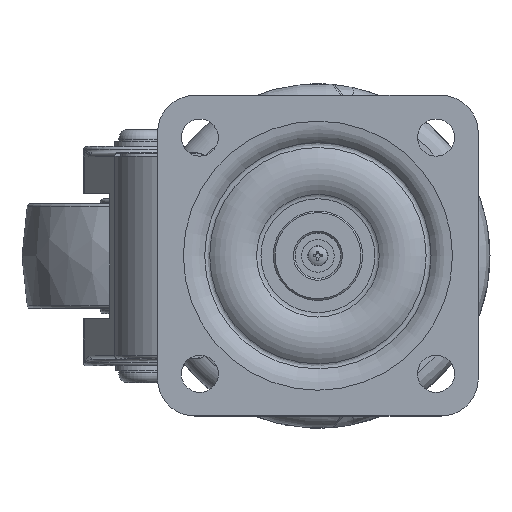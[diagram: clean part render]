
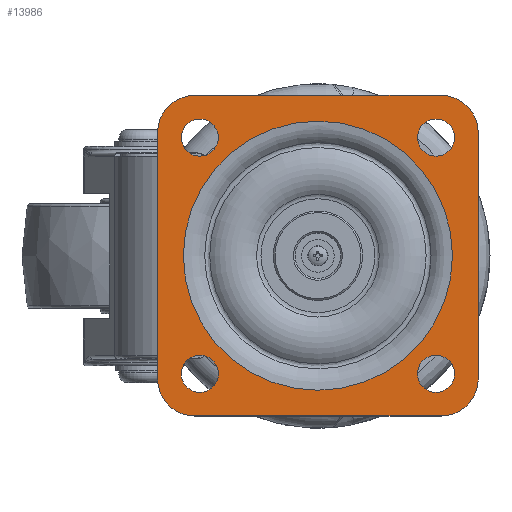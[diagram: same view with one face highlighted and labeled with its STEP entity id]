
A CAD part, top view. The second image highlights one B-rep face of the part: STEP entity #13986.
In plain terms, the highlighted planar face has unit normal (0, 0, 1).
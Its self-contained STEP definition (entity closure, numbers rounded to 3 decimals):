
#13673=CARTESIAN_POINT('',(35.0,29.5,94.1));
#13674=VERTEX_POINT('',#13673);
#13675=CARTESIAN_POINT('',(35.0,35.0,94.1));
#13676=DIRECTION('',(0.0,0.0,-1.0));
#13677=DIRECTION('',(0.0,-1.0,0.0));
#13678=AXIS2_PLACEMENT_3D('',#13675,#13676,#13677);
#13679=CIRCLE('',#13678,5.5);
#13680=EDGE_CURVE('',#13674,#13674,#13679,.T.);
#13722=CARTESIAN_POINT('',(35.0,-40.5,94.1));
#13723=VERTEX_POINT('',#13722);
#13724=CARTESIAN_POINT('',(35.0,-35.0,94.1));
#13725=DIRECTION('',(0.0,0.0,-1.0));
#13726=DIRECTION('',(0.0,-1.0,0.0));
#13727=AXIS2_PLACEMENT_3D('',#13724,#13725,#13726);
#13728=CIRCLE('',#13727,5.5);
#13729=EDGE_CURVE('',#13723,#13723,#13728,.T.);
#13771=CARTESIAN_POINT('',(-35.0,-40.5,94.1));
#13772=VERTEX_POINT('',#13771);
#13773=CARTESIAN_POINT('',(-35.0,-35.0,94.1));
#13774=DIRECTION('',(0.0,0.0,-1.0));
#13775=DIRECTION('',(0.0,-1.0,0.0));
#13776=AXIS2_PLACEMENT_3D('',#13773,#13774,#13775);
#13777=CIRCLE('',#13776,5.5);
#13778=EDGE_CURVE('',#13772,#13772,#13777,.T.);
#13820=CARTESIAN_POINT('',(-35.0,29.5,94.1));
#13821=VERTEX_POINT('',#13820);
#13822=CARTESIAN_POINT('',(-35.0,35.,94.1));
#13823=DIRECTION('',(0.0,0.0,-1.0));
#13824=DIRECTION('',(0.0,-1.0,0.0));
#13825=AXIS2_PLACEMENT_3D('',#13822,#13823,#13824);
#13826=CIRCLE('',#13825,5.5);
#13827=EDGE_CURVE('',#13821,#13821,#13826,.T.);
#13848=CARTESIAN_POINT('',(36.5,47.5,94.1));
#13849=VERTEX_POINT('',#13848);
#13856=CARTESIAN_POINT('',(47.5,36.5,94.1));
#13857=VERTEX_POINT('',#13856);
#13858=CARTESIAN_POINT('',(36.5,36.5,94.1));
#13859=DIRECTION('',(0.,0.,-1.0));
#13860=DIRECTION('',(0.707,0.707,0.));
#13861=AXIS2_PLACEMENT_3D('',#13858,#13859,#13860);
#13862=CIRCLE('',#13861,11.0);
#13863=EDGE_CURVE('',#13849,#13857,#13862,.T.);
#13880=CARTESIAN_POINT('',(47.5,-36.5,94.1));
#13881=VERTEX_POINT('',#13880);
#13882=CARTESIAN_POINT('',(47.5,36.5,94.1));
#13883=DIRECTION('',(0.0,-1.0,0.0));
#13884=VECTOR('',#13883,73.0);
#13885=LINE('',#13882,#13884);
#13886=EDGE_CURVE('',#13857,#13881,#13885,.T.);
#13905=CARTESIAN_POINT('',(0.,69.938,94.1));
#13906=DIRECTION('',(0.0,0.0,1.0));
#13907=DIRECTION('',(0.0,-1.0,0.0));
#13908=AXIS2_PLACEMENT_3D('',#13905,#13906,#13907);
#13909=PLANE('',#13908);
#13910=ORIENTED_EDGE('',*,*,#13863,.F.);
#13911=CARTESIAN_POINT('',(-36.5,47.5,94.1));
#13912=VERTEX_POINT('',#13911);
#13913=CARTESIAN_POINT('',(-36.5,47.5,94.1));
#13914=DIRECTION('',(1.0,0.0,0.0));
#13915=VECTOR('',#13914,73.0);
#13916=LINE('',#13913,#13915);
#13917=EDGE_CURVE('',#13912,#13849,#13916,.T.);
#13918=ORIENTED_EDGE('',*,*,#13917,.F.);
#13919=CARTESIAN_POINT('',(-47.5,36.5,94.1));
#13920=VERTEX_POINT('',#13919);
#13921=CARTESIAN_POINT('',(-36.5,36.5,94.1));
#13922=DIRECTION('',(0.,0.,-1.0));
#13923=DIRECTION('',(-0.707,0.707,0.));
#13924=AXIS2_PLACEMENT_3D('',#13921,#13922,#13923);
#13925=CIRCLE('',#13924,11.0);
#13926=EDGE_CURVE('',#13920,#13912,#13925,.T.);
#13927=ORIENTED_EDGE('',*,*,#13926,.F.);
#13928=CARTESIAN_POINT('',(-47.5,-36.5,94.1));
#13929=VERTEX_POINT('',#13928);
#13930=CARTESIAN_POINT('',(-47.5,-36.5,94.1));
#13931=DIRECTION('',(0.0,1.0,0.0));
#13932=VECTOR('',#13931,73.);
#13933=LINE('',#13930,#13932);
#13934=EDGE_CURVE('',#13929,#13920,#13933,.T.);
#13935=ORIENTED_EDGE('',*,*,#13934,.F.);
#13936=CARTESIAN_POINT('',(-36.5,-47.5,94.1));
#13937=VERTEX_POINT('',#13936);
#13938=CARTESIAN_POINT('',(-36.5,-36.5,94.1));
#13939=DIRECTION('',(0.,0.,-1.0));
#13940=DIRECTION('',(-0.707,-0.707,0.));
#13941=AXIS2_PLACEMENT_3D('',#13938,#13939,#13940);
#13942=CIRCLE('',#13941,11.0);
#13943=EDGE_CURVE('',#13937,#13929,#13942,.T.);
#13944=ORIENTED_EDGE('',*,*,#13943,.F.);
#13945=CARTESIAN_POINT('',(36.5,-47.5,94.1));
#13946=VERTEX_POINT('',#13945);
#13947=CARTESIAN_POINT('',(36.5,-47.5,94.1));
#13948=DIRECTION('',(-1.0,0.0,0.0));
#13949=VECTOR('',#13948,73.);
#13950=LINE('',#13947,#13949);
#13951=EDGE_CURVE('',#13946,#13937,#13950,.T.);
#13952=ORIENTED_EDGE('',*,*,#13951,.F.);
#13953=CARTESIAN_POINT('',(36.5,-36.5,94.1));
#13954=DIRECTION('',(0.,0.,-1.0));
#13955=DIRECTION('',(0.707,-0.707,0.));
#13956=AXIS2_PLACEMENT_3D('',#13953,#13954,#13955);
#13957=CIRCLE('',#13956,11.0);
#13958=EDGE_CURVE('',#13881,#13946,#13957,.T.);
#13959=ORIENTED_EDGE('',*,*,#13958,.F.);
#13960=ORIENTED_EDGE('',*,*,#13886,.F.);
#13961=EDGE_LOOP('',(#13910,#13918,#13927,#13935,#13944,#13952,#13959,#13960));
#13962=FACE_OUTER_BOUND('',#13961,.T.);
#13963=ORIENTED_EDGE('',*,*,#13680,.T.);
#13964=EDGE_LOOP('',(#13963));
#13965=FACE_BOUND('',#13964,.T.);
#13966=ORIENTED_EDGE('',*,*,#13729,.T.);
#13967=EDGE_LOOP('',(#13966));
#13968=FACE_BOUND('',#13967,.T.);
#13969=ORIENTED_EDGE('',*,*,#13778,.T.);
#13970=EDGE_LOOP('',(#13969));
#13971=FACE_BOUND('',#13970,.T.);
#13972=ORIENTED_EDGE('',*,*,#13827,.T.);
#13973=EDGE_LOOP('',(#13972));
#13974=FACE_BOUND('',#13973,.T.);
#13975=CARTESIAN_POINT('',(0.,39.877,94.1));
#13976=VERTEX_POINT('',#13975);
#13977=CARTESIAN_POINT('',(0.,0.,94.1));
#13978=DIRECTION('',(0.0,0.0,-1.0));
#13979=DIRECTION('',(0.0,1.0,0.0));
#13980=AXIS2_PLACEMENT_3D('',#13977,#13978,#13979);
#13981=CIRCLE('',#13980,39.877);
#13982=EDGE_CURVE('',#13976,#13976,#13981,.T.);
#13983=ORIENTED_EDGE('',*,*,#13982,.T.);
#13984=EDGE_LOOP('',(#13983));
#13985=FACE_BOUND('',#13984,.T.);
#13986=ADVANCED_FACE('',(#13962,#13965,#13968,#13971,#13974,#13985),#13909,.T.);
